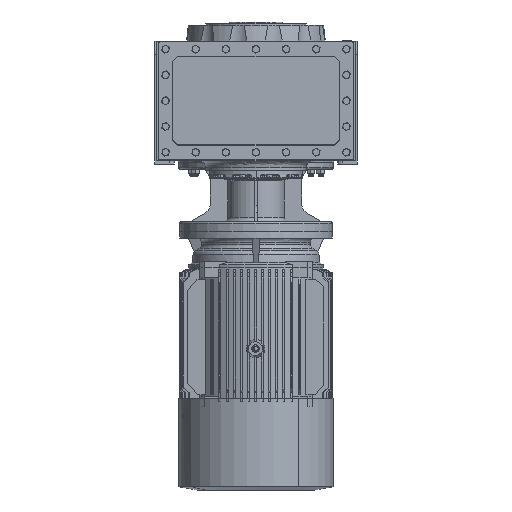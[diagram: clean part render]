
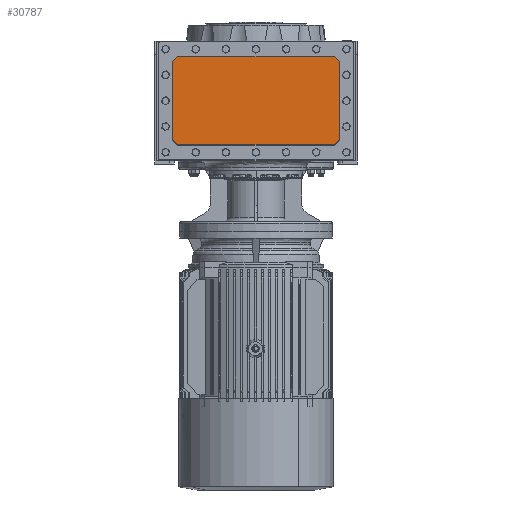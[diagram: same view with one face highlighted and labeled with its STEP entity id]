
A CAD part, front view. The second image highlights one B-rep face of the part: STEP entity #30787.
In plain terms, the highlighted planar face has unit normal (0, -1, 0).
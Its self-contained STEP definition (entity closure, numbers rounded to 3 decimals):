
#5418 = CARTESIAN_POINT ( 'NONE',  ( 190.432, -195., -262.182 ) ) ;
#5537 = DIRECTION ( 'NONE',  ( -0.707, 0., -0.707 ) ) ;
#5901 = CARTESIAN_POINT ( 'NONE',  ( 178.432, -195., -71.318 ) ) ;
#5967 = DIRECTION ( 'NONE',  ( 0.707, 0., -0.707 ) ) ;
#6191 = CARTESIAN_POINT ( 'NONE',  ( -190.432, -195., -262.182 ) ) ;
#6224 = DIRECTION ( 'NONE',  ( -0.707, 0., 0.707 ) ) ;
#8928 = DIRECTION ( 'NONE',  ( 0., 0., 1. ) ) ;
#8964 = CARTESIAN_POINT ( 'NONE',  ( -190.196, -195., -82.75 ) ) ;
#8971 = CARTESIAN_POINT ( 'NONE',  ( -178.432, -195., -71.318 ) ) ;
#9134 = DIRECTION ( 'NONE',  ( 0.707, 0., 0.707 ) ) ;
#10812 = CARTESIAN_POINT ( 'NONE',  ( -179., -195., -71.554 ) ) ;
#10893 = DIRECTION ( 'NONE',  ( 1., 0., 0. ) ) ;
#11192 = CARTESIAN_POINT ( 'NONE',  ( 190.196, -195., -82.75 ) ) ;
#11256 = CARTESIAN_POINT ( 'NONE',  ( -179., -195., -273.946 ) ) ;
#11268 = DIRECTION ( 'NONE',  ( -1., 0., 0. ) ) ;
#11318 = DIRECTION ( 'NONE',  ( 0., 0., -1. ) ) ;
#22492 = FACE_OUTER_BOUND ( 'NONE', #40356, .T. ) ;
#26671 = VECTOR ( 'NONE', #6224, 1000. ) ;
#26687 = VECTOR ( 'NONE', #5537, 1000. ) ;
#26709 = LINE ( 'NONE', #5418, #26687 ) ;
#26723 = VECTOR ( 'NONE', #5967, 1000. ) ;
#26725 = LINE ( 'NONE', #6191, #26671 ) ;
#26727 = LINE ( 'NONE', #5901, #26723 ) ;
#26731 = LINE ( 'NONE', #11256, #26734 ) ;
#26734 = VECTOR ( 'NONE', #11268, 1000. ) ;
#26761 = LINE ( 'NONE', #11192, #26763 ) ;
#26763 = VECTOR ( 'NONE', #11318, 1000. ) ;
#26785 = VECTOR ( 'NONE', #10893, 1000. ) ;
#26790 = LINE ( 'NONE', #10812, #26785 ) ;
#26826 = VECTOR ( 'NONE', #8928, 1000. ) ;
#26832 = VECTOR ( 'NONE', #9134, 1000. ) ;
#26835 = LINE ( 'NONE', #8964, #26826 ) ;
#26846 = LINE ( 'NONE', #8971, #26832 ) ;
#30787 = ADVANCED_FACE ( 'NONE', ( #22492 ), #85546, .T. ) ;
#40356 = EDGE_LOOP ( 'NONE', ( #55460, #55496, #55452, #55454, #55433, #55407, #55413, #55444 ) ) ;
#48045 = VERTEX_POINT ( 'NONE', #61769 ) ;
#48046 = VERTEX_POINT ( 'NONE', #61784 ) ;
#48056 = VERTEX_POINT ( 'NONE', #61804 ) ;
#48064 = VERTEX_POINT ( 'NONE', #61752 ) ;
#48066 = VERTEX_POINT ( 'NONE', #61786 ) ;
#48076 = VERTEX_POINT ( 'NONE', #61702 ) ;
#48092 = VERTEX_POINT ( 'NONE', #61882 ) ;
#48095 = VERTEX_POINT ( 'NONE', #61925 ) ;
#50391 = EDGE_CURVE ( 'NONE', #48056, #48046, #26709, .T. ) ;
#50451 = EDGE_CURVE ( 'NONE', #48066, #48045, #26727, .T. ) ;
#50485 = EDGE_CURVE ( 'NONE', #48076, #48092, #26725, .T. ) ;
#50572 = EDGE_CURVE ( 'NONE', #48064, #48066, #26790, .T. ) ;
#50623 = EDGE_CURVE ( 'NONE', #48045, #48056, #26761, .T. ) ;
#50626 = EDGE_CURVE ( 'NONE', #48046, #48076, #26731, .T. ) ;
#50664 = EDGE_CURVE ( 'NONE', #48092, #48095, #26835, .T. ) ;
#50674 = EDGE_CURVE ( 'NONE', #48095, #48064, #26846, .T. ) ;
#55407 = ORIENTED_EDGE ( 'NONE', *, *, #50485, .F. ) ;
#55413 = ORIENTED_EDGE ( 'NONE', *, *, #50626, .F. ) ;
#55433 = ORIENTED_EDGE ( 'NONE', *, *, #50664, .F. ) ;
#55444 = ORIENTED_EDGE ( 'NONE', *, *, #50391, .F. ) ;
#55452 = ORIENTED_EDGE ( 'NONE', *, *, #50572, .F. ) ;
#55454 = ORIENTED_EDGE ( 'NONE', *, *, #50674, .F. ) ;
#55460 = ORIENTED_EDGE ( 'NONE', *, *, #50623, .F. ) ;
#55496 = ORIENTED_EDGE ( 'NONE', *, *, #50451, .F. ) ;
#61702 = CARTESIAN_POINT ( 'NONE',  ( -178.667, -195., -273.946 ) ) ;
#61752 = CARTESIAN_POINT ( 'NONE',  ( -178.667, -195., -71.554 ) ) ;
#61769 = CARTESIAN_POINT ( 'NONE',  ( 190.196, -195., -83.083 ) ) ;
#61784 = CARTESIAN_POINT ( 'NONE',  ( 178.667, -195., -273.946 ) ) ;
#61786 = CARTESIAN_POINT ( 'NONE',  ( 178.667, -195., -71.554 ) ) ;
#61804 = CARTESIAN_POINT ( 'NONE',  ( 190.196, -195., -262.417 ) ) ;
#61882 = CARTESIAN_POINT ( 'NONE',  ( -190.196, -195., -262.417 ) ) ;
#61925 = CARTESIAN_POINT ( 'NONE',  ( -190.196, -195., -83.083 ) ) ;
#68537 = AXIS2_PLACEMENT_3D ( 'NONE', #85553, #85557, #85547 ) ;
#85546 = PLANE ( 'NONE',  #68537 ) ;
#85547 = DIRECTION ( 'NONE',  ( 0., 0., -1. ) ) ;
#85553 = CARTESIAN_POINT ( 'NONE',  ( 0., -195., 0. ) ) ;
#85557 = DIRECTION ( 'NONE',  ( 0., -1., 0. ) ) ;
